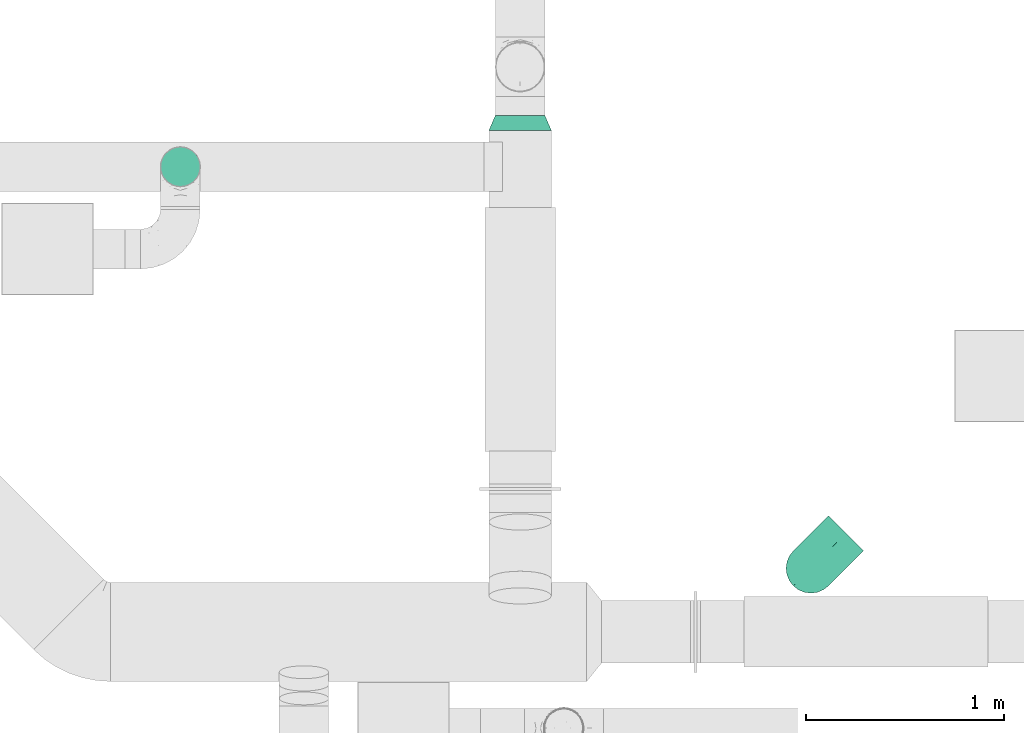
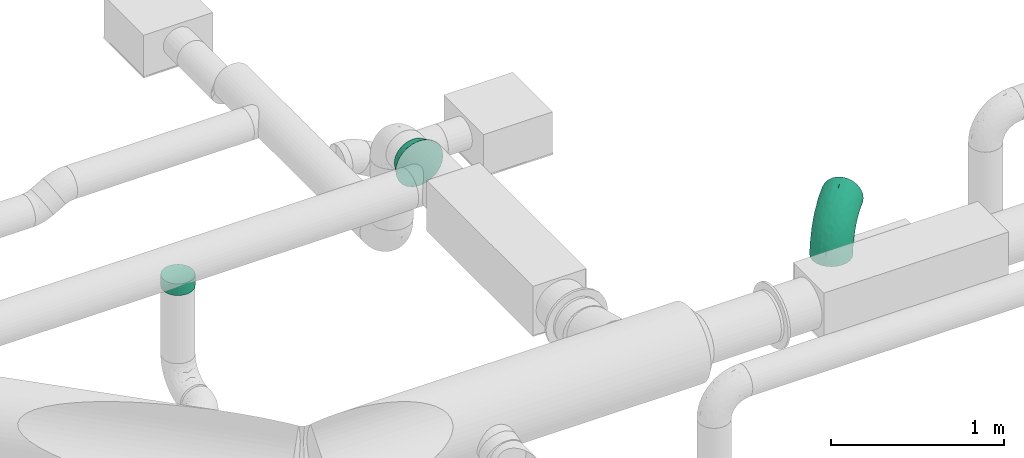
# One storey, part 30 of 31: 3 flow fittings.
"""IFC2X3 building model written with IfcOpenShell, lengths in millimetres."""

import ifcopenshell
import ifcopenshell.guid

model = None  # the IFC model being written
_history = None  # IfcOwnerHistory: only IFC2X3 demands one
_inside = {}  # id of a spatial element -> (the spatial element, [elements in it])
_under = {}  # id of a project, library or spatial element -> (it, [spatial elements below it])
_declared = {}  # id of a project -> (the project, [libraries it declares])
_typed = {}  # id of a type object -> (the type object, [elements of that type])
_made_of = {}  # id of a material, layer set ... -> (it, [elements and type objects made of it])


def new_model(schema):
    """Start an empty IFC model of exactly this schema.

    Asked for "IFC4X3", IfcOpenShell would pick the latest addendum, in which some entities
    have other attributes; the version numbers below select the first issue.
    IFC2X3 requires an IfcOwnerHistory on every rooted entity: one is made here for all.
    """
    global model, _history
    if schema == "IFC4X3":
        model = ifcopenshell.file(schema_version=(4, 3, 0, 0))
    else:
        model = ifcopenshell.file(schema=schema)
    _inside.clear()
    _under.clear()
    _declared.clear()
    _typed.clear()
    _made_of.clear()
    _history = None
    if model.schema == "IFC2X3":
        org = make("IfcOrganization", Name="unknown")
        user = make(
            "IfcPersonAndOrganization",
            ThePerson=make("IfcPerson", FamilyName="unknown"),
            TheOrganization=org,
        )
        app = make(
            "IfcApplication",
            ApplicationDeveloper=org,
            Version="unknown",
            ApplicationFullName="unknown",
            ApplicationIdentifier="unknown",
        )
        _history = make(
            "IfcOwnerHistory",
            OwningUser=user,
            OwningApplication=app,
            ChangeAction="ADDED",
            CreationDate=0,
        )
    return model


def make(cls, **values):
    """One entity of the class cls with the attributes given. An attribute that is None is left unset."""
    return model.create_entity(
        cls, **{name: value for name, value in values.items() if value is not None}
    )


def entity(cls, *values):
    """Any entity or typed value of the class cls, its attributes in the order of the schema. None: left unset."""
    e = model.create_entity(cls)
    for i, value in enumerate(values):
        if value is not None:
            e[i] = value
    return e


def rooted(cls, **values):
    """An entity with a GlobalId (a new one), such as an element, a storey or a relation."""
    return make(cls, GlobalId=ifcopenshell.guid.new(), OwnerHistory=_history, **values)


def si_unit(unit_type, name, prefix=None):
    """IfcSIUnit, for example si_unit("LENGTHUNIT", "METRE", prefix="MILLI")."""
    return make("IfcSIUnit", UnitType=unit_type, Prefix=prefix, Name=name)


def converted_unit(unit_type, name, factor, base, dimensions=None, offset=None):
    """IfcConversionBasedUnit, such as the inch: factor (a typed value) times the base unit."""
    return make(
        "IfcConversionBasedUnit"
        if offset is None
        else "IfcConversionBasedUnitWithOffset",
        ConversionOffset=offset,
        Dimensions=None
        if dimensions is None
        else entity("IfcDimensionalExponents", *dimensions),
        UnitType=unit_type,
        Name=name,
        ConversionFactor=make(
            "IfcMeasureWithUnit", ValueComponent=factor, UnitComponent=base
        ),
    )


def derived_unit(unit_type, elements):
    """IfcDerivedUnit: a product of units, each with its exponent."""
    return make(
        "IfcDerivedUnit",
        Elements=[
            make("IfcDerivedUnitElement", Unit=unit, Exponent=power)
            for unit, power in elements
        ],
        UnitType=unit_type,
    )


def assignment(units):
    """IfcUnitAssignment: the units of a project."""
    return None if units is None else make("IfcUnitAssignment", Units=units)


def point(xyz):
    """IfcCartesianPoint."""
    return None if xyz is None else make("IfcCartesianPoint", Coordinates=xyz)


def direction(xyz):
    """IfcDirection."""
    return None if xyz is None else make("IfcDirection", DirectionRatios=xyz)


def frame(location, z_axis=None, x_axis=None):
    """IfcAxis2Placement3D, a coordinate frame: its origin and axes. An axis left out is left unset."""
    return make(
        "IfcAxis2Placement3D",
        Location=point(location),
        Axis=direction(z_axis),
        RefDirection=direction(x_axis),
    )


def origin_with_axes():
    """The frame at (0, 0, 0) with the z axis (0, 0, 1) and the x axis (1, 0, 0) written out."""
    return frame((0.0, 0.0, 0.0), z_axis=(0.0, 0.0, 1.0), x_axis=(1.0, 0.0, 0.0))


def place(relative_to, where):
    """IfcLocalPlacement: puts the frame where relative to a parent placement (None: the world)."""
    return make(
        "IfcLocalPlacement", PlacementRelTo=relative_to, RelativePlacement=where
    )


def context(
    kind, dimensions, precision=None, world=None, true_north=None, identifier=None
):
    """IfcGeometricRepresentationContext, for example the 3D "Model" context."""
    return make(
        "IfcGeometricRepresentationContext",
        ContextIdentifier=identifier,
        ContextType=kind,
        CoordinateSpaceDimension=dimensions,
        Precision=precision,
        WorldCoordinateSystem=world,
        TrueNorth=true_north,
    )


def subcontext(parent, identifier, kind, view, scale=None):
    """IfcGeometricRepresentationSubContext, for example "Body" below "Model"."""
    return make(
        "IfcGeometricRepresentationSubContext",
        ContextIdentifier=identifier,
        ContextType=kind,
        ParentContext=parent,
        TargetScale=scale,
        TargetView=view,
    )


def project(units=None, contexts=None):
    """IfcProject with its units and contexts."""
    return rooted(
        "IfcProject",
        Name="project",
        RepresentationContexts=contexts,
        UnitsInContext=assignment(units),
    )


def spatial(cls, under=None, at=None, **own):
    """A site, building, storey or space (cls), placed at a placement, below another one or the project."""
    s = rooted(cls, ObjectPlacement=at, **own)
    if under is not None:
        _under.setdefault(under.id(), (under, []))[1].append(s)
    return s


def faces_of(points, faces, orient=None, outer=None):
    """IfcFace entities. A face is a list of loops; a loop is a list of indices into points, from 0.

    orient and outer hold one flag for each loop. By default every Orientation is true, the
    first loop of a face is its IfcFaceOuterBound and the others are IfcFaceBound.
    """
    made = []
    for i, loops in enumerate(faces):
        bounds = []
        for j, loop in enumerate(loops):
            is_outer = j == 0 if outer is None else outer[i][j]
            bounds.append(
                make(
                    "IfcFaceOuterBound" if is_outer else "IfcFaceBound",
                    Bound=make("IfcPolyLoop", Polygon=[points[k] for k in loop]),
                    Orientation=True if orient is None else orient[i][j],
                )
            )
        made.append(make("IfcFace", Bounds=bounds))
    return made


def open_shell(faces, orient=None, outer=None):
    """The faces of one IfcOpenShell. surface_model builds it on its shared points."""
    return ("IfcOpenShell", faces, orient, outer)


def surface_model(cls, points, shells):
    """IfcFaceBasedSurfaceModel or IfcShellBasedSurfaceModel (cls): surfaces that need not close."""
    shared = [point(p) for p in points]
    made = [make(c, CfsFaces=faces_of(shared, fs, o, b)) for c, fs, o, b in shells]
    if cls == "IfcFaceBasedSurfaceModel":
        return make(cls, FbsmFaces=made)
    return make(cls, SbsmBoundary=made)


def shape(context_of_items, identifier, shape_type, items):
    """IfcShapeRepresentation: the items that make up one representation, for example the "Body"."""
    return make(
        "IfcShapeRepresentation",
        ContextOfItems=context_of_items,
        RepresentationIdentifier=identifier,
        RepresentationType=shape_type,
        Items=items,
    )


def source(mapping_origin, context_of_items, identifier, shape_type, items):
    """IfcRepresentationMap: a shape defined once, which mapped items show again and again."""
    return make(
        "IfcRepresentationMap",
        MappingOrigin=mapping_origin,
        MappedRepresentation=shape(context_of_items, identifier, shape_type, items),
    )


def transform(
    local_origin,
    x_axis=None,
    y_axis=None,
    z_axis=None,
    scale=None,
    scale2=None,
    scale3=None,
    uniform=True,
):
    """IfcCartesianTransformationOperator3D, or its non-uniform kind. x_axis, y_axis, z_axis: its Axis1, 2, 3."""
    if uniform:
        return make(
            "IfcCartesianTransformationOperator3D",
            Axis1=direction(x_axis),
            Axis2=direction(y_axis),
            LocalOrigin=point(local_origin),
            Scale=scale,
            Axis3=direction(z_axis),
        )
    return make(
        "IfcCartesianTransformationOperator3DnonUniform",
        Axis1=direction(x_axis),
        Axis2=direction(y_axis),
        LocalOrigin=point(local_origin),
        Scale=scale,
        Axis3=direction(z_axis),
        Scale2=scale2,
        Scale3=scale3,
    )


def mapped(mapping_source, mapping_target):
    """IfcMappedItem: shows the shape of a source again, moved by a transform."""
    return make(
        "IfcMappedItem", MappingSource=mapping_source, MappingTarget=mapping_target
    )


def made_of(thing, what):
    """Note that an element or type object is made of a material, layer set ...; save() writes the relation."""
    if what is not None:
        _made_of.setdefault(what.id(), (what, []))[1].append(thing)
    return thing


def type_object(cls, material=None, **own):
    """A type object (cls), such as IfcWallType, which elements share."""
    return made_of(rooted(cls, **own), material)


def element(
    cls,
    number,
    at=None,
    inside=None,
    cuts=None,
    type_object=None,
    material=None,
    context=None,
    identifier="Body",
    shape_type=None,
    held_by="IfcProductDefinitionShape",
    body=None,
    shapes=None,
    **own,
):
    """One element of the class cls, such as IfcWall. Its Tag is "e" and its number.

    at: its placement. inside: the storey or other place that contains it. cuts: it is an
    opening in that element (IfcRelVoidsElement). A single representation is given by context,
    identifier, shape_type and body (its items); several are given by shapes. held_by: the class
    of the entity that holds the representations. save() writes the other relations.
    """
    e = rooted(cls, Tag="e%d" % number, ObjectPlacement=at, **own)
    if body is not None:
        shapes = [shape(context, identifier, shape_type, body)]
    if shapes is not None:
        e.Representation = make(held_by, Representations=shapes)
    if inside is not None:
        _inside.setdefault(inside.id(), (inside, []))[1].append(e)
    if cuts is not None:
        rooted(
            "IfcRelVoidsElement", RelatingBuildingElement=cuts, RelatedOpeningElement=e
        )
    if type_object is not None:
        _typed.setdefault(type_object.id(), (type_object, []))[1].append(e)
    return made_of(e, material)


def aggregate(whole, parts):
    """IfcRelAggregates: a whole, such as a stair, and the parts it consists of."""
    return rooted("IfcRelAggregates", RelatingObject=whole, RelatedObjects=parts)


def save(model, path):
    """Write the relations noted so far, then the file.

    IfcRelAggregates (storeys below a building ...), IfcRelContainedInSpatialStructure (elements
    in a storey), IfcRelDefinesByType, IfcRelAssociatesMaterial and IfcRelDeclares: one each for
    every whole, place, type object, material and project.
    """
    for whole, parts in _under.values():
        aggregate(whole, parts)
    for where, things in _inside.values():
        rooted(
            "IfcRelContainedInSpatialStructure",
            RelatedElements=things,
            RelatingStructure=where,
        )
    for kind, things in _typed.values():
        rooted("IfcRelDefinesByType", RelatedObjects=things, RelatingType=kind)
    for what, things in _made_of.values():
        rooted("IfcRelAssociatesMaterial", RelatedObjects=things, RelatingMaterial=what)
    for by, libraries in _declared.values():
        rooted("IfcRelDeclares", RelatingContext=by, RelatedDefinitions=libraries)
    model.write(path)


model = new_model("IFC2X3")

# Units and contexts
model_context = context("Model", 3, precision=0.01, world=frame((0.0, 4.29681676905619e-09, 0.0)), true_north=direction((4.01073788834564e-13, 1.0)))
plan_context = context("Plan", 3, precision=0.01, world=frame((0.0, 4.29681676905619e-09, 0.0)), true_north=direction((4.01073788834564e-13, 1.0)))
body_context = subcontext(model_context, "Body", "Model", "MODEL_VIEW")
ifc_project = project(units=[converted_unit("PLANEANGLEUNIT", "DEGREE", entity("IfcPositiveLengthMeasure", 0.0174532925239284), si_unit("PLANEANGLEUNIT", "RADIAN"), dimensions=[0, 0, 0, 0, 0, 0, 0]), si_unit("AREAUNIT", "SQUARE_METRE"), si_unit("LENGTHUNIT", "METRE", prefix="MILLI"), si_unit("MASSUNIT", "GRAM", prefix="KILO"), si_unit("POWERUNIT", "WATT"), si_unit("PRESSUREUNIT", "PASCAL", prefix="KILO"), si_unit("FORCEUNIT", "NEWTON", prefix="KILO"), si_unit("ELECTRICVOLTAGEUNIT", "VOLT"), si_unit("ELECTRICCURRENTUNIT", "AMPERE"), si_unit("THERMODYNAMICTEMPERATUREUNIT", "DEGREE_CELSIUS"), si_unit("TIMEUNIT", "SECOND"), si_unit("VOLUMEUNIT", "CUBIC_METRE"), derived_unit("LINEARVELOCITYUNIT", [(si_unit("LENGTHUNIT", "METRE"), 1), (si_unit("TIMEUNIT", "SECOND"), -1)]), derived_unit("VOLUMETRICFLOWRATEUNIT", [(si_unit("VOLUMEUNIT", "CUBIC_METRE"), 1), (si_unit("TIMEUNIT", "SECOND"), -1)]), derived_unit("THERMALTRANSMITTANCEUNIT", [(si_unit("POWERUNIT", "WATT"), 1), (si_unit("THERMODYNAMICTEMPERATUREUNIT", "KELVIN"), -1), (si_unit("AREAUNIT", "SQUARE_METRE"), -1)]), derived_unit("SOUNDPRESSUREUNIT", [(si_unit("PRESSUREUNIT", "PASCAL"), 1)])], contexts=[model_context, plan_context])

# Site, building, storey
site_placement = place(None, frame((0.0, -4.29681676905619e-09, 0.0), z_axis=(0.0, 0.0, 1.0), x_axis=(1.0, 0.0, 0.0)))
site = spatial("IfcSite", under=ifc_project, at=site_placement, CompositionType="ELEMENT")
building_placement = place(site_placement, frame((0.0, 4.29681676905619e-09, 0.0), z_axis=(0.0, 0.0, 1.0), x_axis=(1.0, 0.0, 0.0)))
building = spatial("IfcBuilding", under=site, at=building_placement, Name="mc-building", CompositionType="ELEMENT")
storey_placement = place(building_placement, frame((0.0, 0.0, 210900.0), z_axis=(0.0, 0.0, 1.0), x_axis=(1.0, 0.0, 0.0)))
storey = spatial("IfcBuildingStorey", under=building, at=storey_placement, Name="Nivå F", CompositionType="ELEMENT", Elevation=210900.0)

# Flow fittings
duct_fitting_type_1 = type_object("IfcDuctFittingType", Name="magicirc_reduction_001", PredefinedType="TRANSITION")
shared_shape_1 = source(origin_with_axes(), body_context, "Body", "SurfaceModel", [
    surface_model("IfcShellBasedSurfaceModel", [(75.0, 78.75, 136.39901), (75.0, 40.764, 152.13332), (75.0, 0.0, 157.5), (75.0, 136.39901, 78.75), (75.0, 157.5, 0.0), (75.0, 152.13332, 40.764), (75.0, -152.13332, -40.764), (75.0, -136.39901, -78.75), (75.0, -152.13332, 40.764), (75.0, -78.75, -136.39901), (75.0, -40.764, -152.13332), (75.0, -111.36932, -111.36932), (75.0, -157.5, 0.0), (0.0, -73.47315, 101.12712), (0.0, -38.62713, 118.88206), (0.0, -101.12712, 73.47315), (0.0, -125.0, 0.0), (0.0, -118.88206, 38.62713), (0.0, -118.88206, -38.62713), (0.0, -101.12712, -73.47315), (0.0, -73.47315, -101.12712), (0.0, 0.0, 125.0), (0.0, 38.62713, 118.88206), (0.0, 73.47315, 101.12712), (0.0, 118.88206, 38.62713), (0.0, 118.88206, -38.62713), (0.0, 101.12712, -73.47315), (0.0, 73.47315, -101.12712), (0.0, 38.62713, -118.88206), (0.0, -38.62713, -118.88206), (0.0, 101.12712, 73.47315), (0.0, 0.0, -125.0), (75.0, -40.764, 152.13332), (75.0, -111.36932, 111.36932), (75.0, -78.75, 136.39901), (75.0, -136.39901, 78.75), (75.0, 111.36932, 111.36932), (75.0, 0.0, -157.5), (75.0, 111.36932, -111.36932), (75.0, 136.39901, -78.75), (75.0, 152.13332, -40.764), (75.0, 78.75, -136.39901), (75.0, 40.764, -152.13332), (0.0, 125.0, 0.0)], [open_shell([[[0, 1, 2]], [[3, 4, 5]], [[6, 7, 8]], [[9, 10, 8]], [[8, 11, 9]], [[12, 6, 8]], [[13, 14, 15]], [[15, 16, 17]], [[18, 16, 19]], [[19, 16, 20]], [[21, 22, 23]], [[24, 25, 26]], [[24, 26, 27]], [[24, 28, 16]], [[29, 20, 16]], [[16, 30, 24]], [[27, 28, 24]], [[31, 16, 28]], [[32, 0, 2]], [[33, 32, 34]], [[32, 35, 3]], [[35, 32, 33]], [[8, 3, 35]], [[32, 36, 0]], [[32, 3, 36]], [[8, 4, 3]], [[8, 37, 4]], [[8, 7, 11]], [[10, 37, 8]], [[4, 38, 39]], [[40, 4, 39]], [[41, 38, 4]], [[42, 41, 4]], [[42, 4, 37]], [[15, 23, 30]], [[23, 15, 21]], [[15, 14, 21]], [[30, 16, 15]], [[31, 29, 16]], [[25, 24, 43]], [[18, 19, 7]], [[16, 18, 6]], [[9, 20, 29]], [[19, 20, 11]], [[31, 10, 29]], [[18, 7, 6]], [[6, 12, 16]], [[19, 11, 7]], [[10, 9, 29]], [[20, 9, 11]], [[31, 37, 10]], [[37, 31, 42]], [[42, 31, 28]], [[27, 41, 28]], [[39, 26, 25]], [[38, 27, 26]], [[40, 25, 43]], [[27, 38, 41]], [[41, 42, 28]], [[38, 26, 39]], [[25, 40, 39]], [[43, 4, 40]], [[24, 30, 3]], [[43, 24, 5]], [[0, 23, 22]], [[30, 23, 36]], [[21, 1, 22]], [[24, 3, 5]], [[5, 4, 43]], [[30, 36, 3]], [[1, 0, 22]], [[23, 0, 36]], [[21, 2, 1]], [[2, 21, 32]], [[32, 21, 14]], [[13, 34, 14]], [[35, 15, 17]], [[33, 13, 15]], [[8, 17, 16]], [[13, 33, 34]], [[34, 32, 14]], [[33, 15, 35]], [[17, 8, 35]], [[16, 12, 8]]])]),
])
flow_fitting_1_placement = place(storey_placement, frame((725584.4603, 441100.1577, 3795.0), z_axis=(0.0, 0.0, 1.0), x_axis=(0.0, -1.0, 0.0)))
element("IfcFlowFitting", 1, at=flow_fitting_1_placement, inside=storey, type_object=duct_fitting_type_1, Name="magicirc_reduction_001", context=body_context, shape_type="MappedRepresentation", body=[
    mapped(shared_shape_1, transform((0.0, 0.0, 0.0), scale=1.0)),
])
duct_fitting_type_2 = type_object("IfcDuctFittingType", Name="magicirc_tapoutlet_001", PredefinedType="CONNECTOR")
shared_shape_2 = source(origin_with_axes(), body_context, "Body", "SurfaceModel", [
    surface_model("IfcShellBasedSurfaceModel", [(-56.096, -25.8819, -96.59259), (-56.096, -100.0, 0.0), (-56.096, 0.0, -100.0), (-56.096, -50.0, -86.60254), (-56.096, -70.71068, -70.71068), (-56.096, -86.60254, -50.0), (-56.096, 70.71068, -70.71068), (-56.096, 96.59259, 25.8819), (-56.096, 50.0, -86.60254), (-56.096, 25.8819, -96.59259), (-56.096, 86.60254, -50.0), (-56.096, 96.59259, -25.8819), (-56.096, 100.0, 0.0), (-56.096, -96.59259, -25.8819), (-56.096, -96.59259, 25.8819), (-56.096, -86.60254, 50.0), (-56.096, -70.71068, 70.71068), (-56.096, -25.8819, 96.59259), (-56.096, -50.0, 86.60254), (-56.096, 25.8819, 96.59259), (-56.096, 70.71068, 70.71068), (-56.096, 86.60254, 50.0), (-56.096, 50.0, 86.60254), (-56.096, 0.0, 100.0), (0.0, -25.8819, 96.59259), (0.0, 0.0, 100.0), (0.0, -50.0, 86.60254), (0.0, -70.71068, 70.71068), (0.0, -100.0, 0.0), (0.0, -96.59259, 25.8819), (0.0, -86.60254, 50.0), (0.0, -96.59259, -25.8819), (0.0, -86.60254, -50.0), (0.0, -70.71068, -70.71068), (0.0, -25.8819, -96.59259), (0.0, -50.0, -86.60254), (0.0, 0.0, -100.0), (0.0, 25.8819, -96.59259), (0.0, 50.0, -86.60254), (0.0, 70.71068, -70.71068), (0.0, 96.59259, -25.8819), (0.0, 86.60254, -50.0), (0.0, 100.0, 0.0), (0.0, 96.59259, 25.8819), (0.0, 86.60254, 50.0), (0.0, 70.71068, 70.71068), (0.0, 25.8819, 96.59259), (0.0, 50.0, 86.60254), (25.0, 0.0, -100.0), (25.0, 25.8819, -96.59259), (25.0, -25.8819, -96.59259), (25.0, -96.59259, 25.8819), (25.0, -50.0, -86.60254), (25.0, -86.60254, -50.0), (25.0, -70.71068, -70.71068), (25.0, 100.0, 0.0), (25.0, 96.59259, 25.8819), (25.0, 70.71068, -70.71068), (25.0, 50.0, -86.60254), (25.0, 96.59259, -25.8819), (25.0, 86.60254, -50.0), (25.0, -96.59259, -25.8819), (25.0, -86.60254, 50.0), (25.0, -70.71068, 70.71068), (25.0, -50.0, 86.60254), (25.0, -25.8819, 96.59259), (25.0, 0.0, 100.0), (25.0, 86.60254, 50.0), (25.0, 70.71068, 70.71068), (25.0, 25.8819, 96.59259), (25.0, 50.0, 86.60254), (25.0, -100.0, 0.0)], [open_shell([[[0, 1, 2]], [[3, 1, 0]], [[1, 4, 5]], [[1, 3, 4]], [[6, 2, 7]], [[2, 8, 9]], [[2, 6, 8]], [[10, 7, 11]], [[7, 10, 6]], [[12, 11, 7]], [[1, 5, 13]], [[14, 15, 2]], [[15, 16, 2]], [[17, 2, 18]], [[2, 16, 18]], [[2, 17, 19]], [[2, 20, 21]], [[7, 2, 21]], [[2, 22, 20]], [[19, 22, 2]], [[17, 23, 19]], [[14, 2, 1]], [[24, 25, 23]], [[26, 24, 17]], [[17, 24, 23]], [[16, 27, 18]], [[26, 17, 18]], [[26, 18, 27]], [[1, 28, 29]], [[14, 29, 30]], [[15, 30, 16]], [[29, 14, 1]], [[15, 14, 30]], [[27, 16, 30]], [[31, 28, 1]], [[32, 31, 13]], [[13, 31, 1]], [[4, 33, 5]], [[32, 13, 5]], [[32, 5, 33]], [[34, 35, 0]], [[36, 34, 2]], [[3, 35, 4]], [[35, 3, 0]], [[34, 0, 2]], [[33, 4, 35]], [[37, 36, 2]], [[38, 37, 9]], [[9, 37, 2]], [[6, 39, 8]], [[38, 9, 8]], [[38, 8, 39]], [[40, 41, 11]], [[42, 40, 12]], [[10, 39, 6]], [[41, 10, 11]], [[11, 12, 40]], [[41, 39, 10]], [[43, 42, 12]], [[44, 43, 7]], [[7, 43, 12]], [[20, 45, 21]], [[44, 7, 21]], [[44, 21, 45]], [[23, 25, 46]], [[22, 46, 47]], [[47, 20, 22]], [[46, 22, 19]], [[19, 23, 46]], [[45, 20, 47]], [[48, 49, 50]], [[50, 51, 52]], [[53, 54, 51]], [[51, 54, 52]], [[50, 55, 56]], [[57, 55, 58]], [[50, 49, 58]], [[59, 55, 60]], [[57, 60, 55]], [[58, 55, 50]], [[61, 53, 51]], [[62, 51, 50]], [[50, 63, 62]], [[64, 50, 65]], [[64, 63, 50]], [[66, 65, 50]], [[67, 68, 50]], [[50, 56, 67]], [[69, 66, 70]], [[50, 68, 70]], [[70, 66, 50]], [[71, 61, 51]], [[65, 66, 25]], [[64, 65, 24]], [[24, 65, 25]], [[27, 63, 26]], [[64, 24, 26]], [[64, 26, 63]], [[51, 62, 30]], [[71, 51, 29]], [[30, 62, 27]], [[51, 30, 29]], [[71, 29, 28]], [[63, 27, 62]], [[61, 71, 28]], [[53, 61, 31]], [[31, 61, 28]], [[33, 54, 32]], [[53, 31, 32]], [[53, 32, 54]], [[34, 48, 50]], [[35, 50, 52]], [[35, 52, 33]], [[48, 34, 36]], [[35, 34, 50]], [[54, 33, 52]], [[49, 48, 36]], [[58, 49, 37]], [[37, 49, 36]], [[39, 57, 38]], [[58, 37, 38]], [[58, 38, 57]], [[59, 60, 41]], [[55, 59, 40]], [[41, 60, 39]], [[59, 41, 40]], [[55, 40, 42]], [[57, 39, 60]], [[56, 55, 42]], [[67, 56, 43]], [[43, 56, 42]], [[45, 68, 44]], [[67, 43, 44]], [[67, 44, 68]], [[69, 70, 47]], [[66, 69, 46]], [[47, 70, 45]], [[69, 47, 46]], [[66, 46, 25]], [[68, 45, 70]], [[64, 62, 50]], [[63, 62, 64]], [[56, 67, 50]], [[66, 50, 70]], [[19, 2, 17]], [[2, 21, 7]], [[20, 21, 2]], [[20, 2, 22]], [[2, 1, 14]]])]),
])
flow_fitting_2_placement = place(storey_placement, frame((723870.52987, 440841.83428, 3670.0), z_axis=(0.0, -1.0, 0.0), x_axis=(0.0, 0.0, -1.0)))
element("IfcFlowFitting", 2, at=flow_fitting_2_placement, inside=storey, type_object=duct_fitting_type_2, Name="magicirc_tapoutlet_001", context=body_context, shape_type="MappedRepresentation", body=[
    mapped(shared_shape_2, transform((0.0, 0.0, 0.0), scale=1.0)),
])
duct_fitting_type_3 = type_object("IfcDuctFittingType", Name="magicirc_elbow_full_radius_001", PredefinedType="BEND")
shared_shape_3 = source(origin_with_axes(), body_context, "Body", "SurfaceModel", [
    surface_model("IfcShellBasedSurfaceModel", [(-250.0, 0.0, -125.0), (-250.0, -88.38835, -88.38835), (-250.0, 32.35238, -120.74073), (-250.0, 62.5, -108.25318), (-250.0, 88.38835, -88.38835), (-250.0, 120.74073, -32.35238), (-250.0, 108.25318, -62.5), (-250.0, -62.5, -108.25318), (-250.0, -32.35238, -120.74073), (-250.0, -108.25318, -62.5), (-250.0, -120.74073, -32.35238), (-250.0, -125.0, 0.0), (-250.0, -88.38835, 88.38835), (-250.0, 120.74073, 32.35238), (-250.0, -62.5, 108.25318), (-250.0, 108.25318, 62.5), (-250.0, 62.5, 108.25318), (-250.0, 88.38835, 88.38835), (-250.0, 32.35238, 120.74073), (-250.0, -108.25318, 62.5), (-250.0, -120.74073, 32.35238), (-250.0, -32.35238, 120.74073), (-250.0, 0.0, 125.0), (-250.0, 125.0, 0.0), (-32.35238, 250.0, -120.74073), (88.38835, 250.0, -88.38835), (0.0, 250.0, -125.0), (-88.38835, 250.0, -88.38835), (-62.5, 250.0, -108.25318), (-108.25318, 250.0, -62.5), (-120.74073, 250.0, -32.35238), (32.35238, 250.0, -120.74073), (62.5, 250.0, -108.25318), (120.74073, 250.0, -32.35238), (108.25318, 250.0, -62.5), (125.0, 250.0, 0.0), (88.38835, 250.0, 88.38835), (62.5, 250.0, 108.25318), (-120.74073, 250.0, 32.35238), (-108.25318, 250.0, 62.5), (-62.5, 250.0, 108.25318), (-88.38835, 250.0, 88.38835), (-32.35238, 250.0, 120.74073), (120.74073, 250.0, 32.35238), (108.25318, 250.0, 62.5), (0.0, 250.0, 125.0), (32.35238, 250.0, 120.74073), (-125.0, 250.0, 0.0), (-210.86951, 73.07385, 104.36376), (-184.88194, -119.30291, 0.0), (-195.25827, -115.02308, 37.93413), (-218.90842, -122.27984, 0.0), (53.79635, 43.6295, 43.29829), (28.71982, 26.00799, 63.66662), (24.95926, 3.36677, 37.10772), (-143.32142, -83.48741, 74.82033), (-148.43956, -66.68827, 93.84246), (-193.81021, -79.4231, 92.40443), (-215.01547, -101.28826, 70.7859), (-170.24804, -98.61932, 63.57524), (15.48822, 139.1377, 119.17758), (51.95219, 181.65541, 109.88177), (21.43204, 199.18477, 122.23461), (-92.12122, -88.57213, 0.0), (-62.5, -74.75953, 0.0), (-102.19713, -88.25159, 37.84333), (114.99061, 194.89886, 37.86695), (105.10704, 146.7157, 35.60305), (110.84382, 153.31219, 0.0), (-35.72732, -56.0131, 0.0), (-19.33443, -42.66525, 24.1819), (-49.61048, -64.84865, 21.07887), (-134.49668, -18.50083, 117.62872), (-140.3114, 18.31287, 124.83908), (-163.87891, -5.14412, 123.50312), (-19.95522, 81.94859, 120.03225), (-25.80872, 122.13882, 124.73796), (-52.10962, 92.30678, 124.9631), (-31.05983, -5.99293, 89.90144), (-41.72797, 23.84412, 111.01725), (-81.01653, -19.40599, 104.87443), (-106.83954, -79.59981, 60.56422), (-146.98015, -105.1079, 35.84762), (-71.29451, -72.63164, 38.82328), (-73.06126, 220.06184, 103.19018), (-98.79093, 205.2116, 84.29848), (-75.91528, 182.06995, 107.88634), (-199.69686, 99.57099, 85.2884), (-203.49675, 11.2922, 124.81465), (-116.53306, 171.44239, 81.08815), (-111.87993, 90.36566, 118.79078), (-104.67411, 138.16705, 105.76412), (-145.96795, 109.49288, 99.87096), (-196.30432, -21.44057, 122.11502), (-215.51315, -51.86659, 112.81539), (-204.26429, 116.15735, 61.96761), (-171.07855, 119.2179, 78.533), (-181.86003, 134.49131, 46.84392), (-214.14919, 125.14691, 34.6495), (-134.49131, 181.86003, 46.84392), (-159.17408, 159.17408, 29.15352), (-152.46395, 152.46395, 55.37908), (-211.37287, 131.11793, 0.0), (-188.77781, 138.76885, 22.08599), (-176.52685, 148.87287, 0.0), (-90.84545, 14.70792, 120.26896), (-165.92299, 79.38605, 109.77065), (-194.42694, 43.85537, 119.55352), (38.35285, 111.1449, 103.53188), (67.56111, 151.47747, 93.91415), (101.2929, 214.32433, 70.67839), (-11.88244, 26.84905, 98.98258), (69.59743, 58.34132, 24.07272), (88.25159, 102.19715, 37.84335), (71.67798, 75.77581, 46.99643), (-84.05365, 84.19131, 124.04603), (-74.05474, 58.59216, 124.60033), (122.27984, 218.90842, 0.0), (-11.46722, -27.90939, 45.97099), (2.8419, -2.84189, 63.66452), (-36.75436, -35.39096, 65.83052), (79.49517, 196.80314, 92.78444), (59.14009, 215.57843, 109.07718), (-43.54002, 203.9777, 118.93211), (-3.74505, 217.94309, 124.98888), (47.42619, 250.0, 114.49695), (-11.6252, 186.58509, 124.95553), (-37.69004, 161.1507, 123.41409), (-148.87287, 176.52685, 0.0), (-138.76885, 188.77781, 22.08599), (-131.11793, 211.37287, 0.0), (-125.14691, 214.14919, 34.6495), (-84.38488, 127.39299, 117.02266), (-59.20815, 123.25028, 123.23304), (-63.59847, 155.77939, 118.03647), (56.0131, 35.72732, 0.0), (48.70082, 26.28379, 21.1922), (-116.19732, 204.24725, 61.91096), (9.4067, 98.99033, 114.49463), (79.67349, 106.95659, 60.52634), (-16.17619, 250.0, 122.87036), (82.93177, 142.04467, 75.00397), (-143.56269, 53.49001, 122.15523), (102.38473, 121.74244, 0.0), (88.57213, 92.12122, 0.0), (44.74763, 58.49273, 72.95926), (18.11496, 55.96411, 95.23773), (9.69309, 23.39724, 81.63831), (-67.51915, -39.60495, 84.29377), (98.46572, 169.05992, 63.37638), (-170.8102, -51.18183, 108.87038), (-153.31219, -110.84382, 0.0), (-123.62588, -42.04646, 104.74517), (-73.23164, -60.48705, 64.15546), (-139.54816, 139.54816, 82.62583), (-108.1391, 55.1991, 124.67421), (-60.03995, 38.39208, 120.18375), (65.18219, 107.64577, 80.24903), (43.4165, 83.93892, 89.61045), (-4.9115, 60.75686, 109.8509), (-110.21718, -65.96071, 80.65176), (-43.62951, -53.79636, 43.29829), (37.26667, 8.95465, 0.0), (14.15601, -14.15601, 0.0), (-8.95465, -37.26667, 0.0), (-121.74244, -102.38473, 0.0), (74.75953, 62.5, 0.0), (119.30291, 184.88194, 0.0), (-48.82206, -1.60827, -102.07682), (-81.15095, 5.22067, -115.678), (-46.7578, 29.40312, -114.58593), (-204.53459, 115.51747, -62.86787), (-214.14919, 125.14691, -34.6495), (-181.86003, 134.49131, -46.84392), (-14.61222, -31.35351, -44.43883), (11.84236, -11.84236, -33.95092), (-22.4719, -45.07054, -24.34392), (-223.1891, 97.50172, -81.04959), (-204.40195, 73.34241, -105.17442), (-205.98338, 43.52544, -118.79771), (-115.51747, 204.53457, -62.86787), (-123.49723, 170.45377, -74.23949), (-134.49131, 181.86003, -46.84392), (-183.06045, -52.02369, -110.01015), (-110.47452, -37.60202, -103.79083), (-151.64326, -67.35, -94.13381), (-188.77781, 138.76885, -22.08599), (-114.75143, 65.55471, -123.1751), (-107.82895, 32.74573, -124.62786), (-148.44163, 51.08373, -122.1244), (-159.17408, 159.17408, -29.15352), (-138.76885, 188.77781, -22.08599), (-119.19358, 124.76558, -104.29075), (-156.37688, 113.94777, -91.79313), (-139.54817, 139.54815, -82.62583), (-17.8555, 5.83155, -89.841), (-53.98544, -29.45541, -85.32833), (52.02369, 183.06045, -110.01015), (-194.89886, -114.99061, -37.86695), (68.13995, 56.13213, -24.5986), (53.12789, 44.54335, -46.08326), (71.63973, 76.43802, -47.84654), (-218.9084, -122.27984, 0.0), (-142.39083, -82.85696, -75.24042), (-197.12937, -79.50134, -92.82571), (-214.32433, -101.2929, -70.67839), (-187.89553, 11.55914, -124.94803), (-76.28398, -71.66476, -47.61611), (-102.35833, -88.16959, -38.28022), (-107.64683, -79.80589, -60.8013), (-55.74247, -67.93132, -24.47435), (-73.34242, 204.40195, -105.17441), (-199.49861, -21.42932, -122.24748), (-107.64576, -65.1822, -80.24902), (-0.34225, 0.34224, -70.72271), (29.30666, 54.05255, -85.49962), (16.15015, 142.42885, -119.37772), (43.11376, 128.52401, -105.34342), (14.39958, 85.87454, -108.99442), (-152.46395, 152.46393, -55.37908), (-125.14691, 214.14919, -34.6495), (-83.7122, 64.8786, -124.99462), (-54.88917, 96.03345, -124.99152), (-55.00537, 55.00536, -122.31604), (114.99061, 194.89886, -37.86695), (-97.50172, 223.1891, -81.04959), (-101.67989, 188.66846, -87.26306), (21.42932, 199.49861, -122.24748), (-11.55914, 187.89551, -124.94803), (-17.77846, 99.36444, -122.09337), (-43.52544, 205.98336, -118.79771), (-142.42885, -16.15015, -119.37772), (79.50134, 197.12936, -92.82571), (-188.66846, 101.67988, -87.26306), (-170.17192, 125.74792, -71.81093), (45.368, 22.81369, -24.20694), (101.2929, 214.32433, -70.67839), (105.10171, 146.67975, -35.58648), (88.16959, 102.35833, -38.28022), (79.96492, 108.09127, -60.85482), (-146.67975, -105.10171, -35.58648), (122.27984, 218.9084, 0.0), (98.46572, 169.0599, -63.37638), (-144.66282, 11.20212, -124.51517), (-87.43442, 152.97293, -109.2834), (67.3894, 152.70136, -94.37252), (-152.97295, 87.4344, -109.2834), (-102.45394, 113.88071, -114.88639), (-64.92037, 173.4251, -114.6928), (-51.08373, 148.44162, -122.1244), (-30.24824, 128.8738, -124.99659), (30.47164, 29.3995, -64.89969), (53.45139, 66.81998, -68.66115), (65.18219, 107.64576, -80.24903), (82.78793, 142.70732, -75.45609), (-67.10765, -53.67876, -68.59085), (-44.54336, -53.12789, -46.08326), (-169.05992, -98.46572, -63.37638), (-77.48047, 126.65809, -119.10822), (-111.62197, 155.40485, -94.01416), (-173.42512, 64.92037, -114.69279), (-93.45156, 93.45155, -121.68252), (31.52201, 14.63788, -44.14115), (-75.97227, -25.0209, -99.65574), (-18.30454, 63.16594, -115.56557), (-16.44961, 32.13712, -103.97124), (-29.64558, -30.50919, -65.101)], [open_shell([[[0, 1, 2]], [[3, 2, 4]], [[5, 6, 4]], [[1, 4, 2]], [[4, 1, 5]], [[7, 1, 8]], [[1, 0, 8]], [[9, 10, 1]], [[11, 1, 10]], [[11, 12, 1]], [[13, 5, 1]], [[1, 14, 13]], [[13, 14, 15]], [[16, 15, 14]], [[17, 15, 16]], [[16, 14, 18]], [[19, 12, 20]], [[20, 12, 11]], [[21, 22, 14]], [[12, 14, 1]], [[14, 22, 18]], [[23, 5, 13]], [[24, 25, 26]], [[27, 24, 28]], [[27, 29, 30]], [[24, 27, 25]], [[30, 25, 27]], [[31, 25, 32]], [[31, 26, 25]], [[25, 33, 34]], [[33, 25, 35]], [[25, 36, 35]], [[25, 30, 37]], [[30, 38, 37]], [[39, 37, 38]], [[37, 39, 40]], [[40, 39, 41]], [[42, 37, 40]], [[43, 36, 44]], [[35, 36, 43]], [[37, 45, 46]], [[25, 37, 36]], [[42, 45, 37]], [[30, 47, 38]], [[17, 16, 48]], [[49, 50, 51]], [[52, 53, 54]], [[55, 56, 57]], [[58, 50, 59]], [[60, 61, 62]], [[63, 64, 65]], [[66, 67, 68]], [[69, 70, 71]], [[72, 73, 74]], [[75, 76, 77]], [[12, 57, 14]], [[78, 79, 80]], [[81, 82, 65]], [[64, 83, 65]], [[84, 85, 86]], [[12, 19, 58]], [[12, 58, 57]], [[17, 48, 87]], [[22, 88, 18]], [[86, 85, 89]], [[90, 91, 92]], [[93, 21, 94]], [[95, 96, 97]], [[85, 41, 39]], [[15, 17, 87]], [[21, 93, 22]], [[23, 13, 98]], [[99, 100, 101]], [[91, 86, 89]], [[102, 103, 104]], [[80, 79, 105]], [[106, 48, 107]], [[107, 16, 18]], [[14, 94, 21]], [[61, 108, 109]], [[36, 110, 44]], [[79, 78, 111]], [[112, 113, 114]], [[84, 40, 41]], [[44, 66, 43]], [[115, 116, 77]], [[45, 62, 46]], [[66, 117, 43]], [[118, 119, 120]], [[37, 121, 36]], [[121, 37, 122]], [[123, 124, 42]], [[98, 97, 103]], [[66, 44, 110]], [[15, 87, 95]], [[122, 37, 125]], [[126, 127, 76]], [[128, 129, 130]], [[129, 131, 130]], [[128, 104, 100]], [[130, 131, 47]], [[132, 133, 134]], [[42, 40, 123]], [[99, 129, 100]], [[135, 112, 136]], [[126, 123, 127]], [[137, 38, 131]], [[138, 60, 76]], [[19, 20, 50]], [[101, 100, 97]], [[114, 113, 139]], [[124, 45, 140]], [[46, 62, 122]], [[103, 100, 104]], [[92, 96, 87]], [[119, 118, 54]], [[98, 95, 97]], [[141, 121, 109]], [[88, 22, 93]], [[142, 107, 73]], [[143, 113, 144]], [[145, 146, 147]], [[78, 148, 120]], [[81, 65, 83]], [[39, 38, 137]], [[85, 137, 89]], [[139, 67, 149]], [[121, 110, 36]], [[72, 93, 150]], [[88, 73, 107]], [[55, 59, 81]], [[94, 57, 150]], [[50, 20, 51]], [[50, 151, 82]], [[62, 45, 124]], [[60, 62, 126]], [[109, 121, 61]], [[110, 121, 149]], [[84, 123, 40]], [[127, 134, 133]], [[152, 72, 150]], [[105, 73, 72]], [[149, 67, 66]], [[149, 141, 139]], [[153, 81, 83]], [[82, 59, 50]], [[88, 93, 74]], [[107, 18, 88]], [[100, 129, 128]], [[131, 129, 99]], [[131, 99, 137]], [[131, 38, 47]], [[99, 101, 89]], [[39, 137, 85]], [[99, 89, 137]], [[89, 154, 91]], [[92, 154, 96]], [[91, 132, 134]], [[102, 23, 98]], [[100, 103, 97]], [[102, 98, 103]], [[95, 13, 15]], [[95, 98, 13]], [[96, 95, 87]], [[92, 87, 106]], [[96, 154, 101]], [[90, 92, 106]], [[91, 154, 92]], [[107, 142, 106]], [[105, 116, 155]], [[115, 155, 116]], [[116, 156, 75]], [[107, 48, 16]], [[87, 48, 106]], [[80, 105, 72]], [[156, 105, 79]], [[152, 150, 56]], [[148, 78, 80]], [[152, 148, 80]], [[145, 157, 158]], [[146, 111, 147]], [[108, 157, 109]], [[79, 111, 159]], [[76, 127, 133]], [[96, 101, 97]], [[89, 101, 154]], [[73, 105, 155]], [[90, 106, 142]], [[160, 153, 148]], [[148, 153, 120]], [[153, 160, 81]], [[120, 153, 161]], [[118, 120, 161]], [[78, 120, 119]], [[161, 70, 118]], [[162, 136, 54]], [[163, 70, 164]], [[70, 163, 54]], [[71, 70, 161]], [[151, 50, 49]], [[83, 71, 161]], [[69, 164, 70]], [[153, 83, 161]], [[65, 165, 63]], [[55, 81, 160]], [[82, 81, 59]], [[56, 55, 160]], [[57, 59, 55]], [[160, 148, 152]], [[57, 56, 150]], [[160, 152, 56]], [[80, 72, 152]], [[71, 64, 69]], [[134, 123, 86]], [[77, 76, 133]], [[138, 76, 75]], [[126, 76, 60]], [[123, 134, 127]], [[91, 134, 86]], [[91, 90, 132]], [[115, 132, 90]], [[133, 132, 115]], [[75, 77, 116]], [[133, 115, 77]], [[155, 90, 142]], [[90, 155, 115]], [[73, 155, 142]], [[108, 61, 60]], [[141, 109, 157]], [[138, 75, 159]], [[158, 146, 145]], [[139, 141, 157]], [[121, 141, 149]], [[145, 114, 139]], [[139, 113, 67]], [[145, 139, 157]], [[112, 114, 52]], [[136, 112, 52]], [[166, 144, 112]], [[54, 136, 52]], [[135, 166, 112]], [[136, 162, 135]], [[67, 143, 68]], [[65, 82, 165]], [[112, 144, 113]], [[68, 167, 66]], [[85, 84, 41]], [[123, 84, 86]], [[20, 11, 51]], [[117, 66, 167]], [[117, 35, 43]], [[66, 110, 149]], [[57, 94, 14]], [[93, 94, 150]], [[50, 58, 19]], [[57, 58, 59]], [[122, 62, 61]], [[46, 122, 125]], [[121, 122, 61]], [[124, 123, 126]], [[42, 124, 140]], [[62, 124, 126]], [[88, 74, 73]], [[93, 72, 74]], [[113, 143, 67]], [[64, 71, 83]], [[75, 156, 79]], [[116, 105, 156]], [[147, 78, 119]], [[159, 111, 146]], [[138, 146, 108]], [[79, 159, 75]], [[78, 147, 111]], [[147, 53, 145]], [[53, 147, 119]], [[114, 145, 52]], [[146, 138, 159]], [[108, 60, 138]], [[54, 53, 119]], [[52, 145, 53]], [[54, 118, 70]], [[163, 162, 54]], [[151, 165, 82]], [[157, 108, 158]], [[146, 158, 108]], [[168, 169, 170]], [[171, 172, 173]], [[174, 175, 176]], [[4, 177, 178]], [[179, 2, 3]], [[180, 181, 182]], [[102, 172, 23]], [[183, 184, 185]], [[104, 186, 102]], [[187, 188, 189]], [[190, 128, 191]], [[171, 5, 172]], [[192, 193, 194]], [[168, 195, 196]], [[197, 31, 32]], [[4, 6, 177]], [[198, 10, 9]], [[199, 200, 201]], [[198, 202, 10]], [[203, 204, 185]], [[205, 198, 9]], [[179, 3, 178]], [[7, 183, 204]], [[4, 178, 3]], [[206, 0, 2]], [[186, 172, 102]], [[207, 208, 209]], [[205, 9, 1]], [[210, 208, 207]], [[211, 27, 28]], [[212, 0, 206]], [[1, 7, 204]], [[213, 185, 184]], [[214, 195, 215]], [[128, 190, 104]], [[216, 217, 218]], [[173, 190, 219]], [[176, 69, 210]], [[30, 220, 47]], [[221, 222, 223]], [[34, 33, 224]], [[220, 180, 182]], [[29, 27, 225]], [[226, 225, 211]], [[26, 227, 228]], [[228, 24, 26]], [[0, 212, 8]], [[31, 227, 26]], [[216, 218, 229]], [[211, 28, 230]], [[8, 183, 7]], [[212, 231, 183]], [[232, 197, 32]], [[233, 171, 234]], [[235, 200, 199]], [[175, 164, 176]], [[199, 144, 166]], [[169, 188, 223]], [[236, 25, 34]], [[228, 227, 216]], [[237, 238, 239]], [[198, 240, 151]], [[241, 167, 224]], [[236, 224, 242]], [[243, 189, 188]], [[220, 182, 191]], [[244, 226, 211]], [[197, 245, 217]], [[226, 181, 180]], [[246, 192, 247]], [[248, 230, 249]], [[130, 191, 128]], [[32, 25, 232]], [[250, 216, 229]], [[219, 190, 182]], [[186, 190, 173]], [[251, 215, 252]], [[253, 254, 239]], [[165, 208, 63]], [[207, 255, 256]], [[209, 240, 257]], [[33, 35, 241]], [[224, 33, 241]], [[224, 68, 237]], [[28, 24, 230]], [[244, 211, 248]], [[246, 178, 233]], [[179, 189, 206]], [[244, 248, 258]], [[244, 192, 259]], [[222, 229, 223]], [[189, 260, 246]], [[193, 233, 234]], [[187, 246, 261]], [[231, 212, 206]], [[183, 8, 212]], [[185, 204, 183]], [[205, 204, 257]], [[31, 197, 227]], [[216, 227, 197]], [[236, 232, 25]], [[245, 254, 253]], [[252, 239, 201]], [[237, 242, 224]], [[257, 240, 198]], [[257, 203, 209]], [[24, 228, 230]], [[249, 230, 228]], [[179, 178, 260]], [[206, 2, 179]], [[190, 186, 104]], [[172, 186, 173]], [[234, 171, 173]], [[172, 5, 23]], [[177, 171, 233]], [[5, 171, 6]], [[130, 47, 220]], [[190, 191, 182]], [[130, 220, 191]], [[180, 30, 29]], [[30, 180, 220]], [[225, 180, 29]], [[210, 69, 64]], [[214, 251, 262]], [[219, 234, 173]], [[234, 194, 193]], [[259, 194, 181]], [[246, 233, 193]], [[244, 258, 247]], [[246, 193, 192]], [[259, 181, 226]], [[181, 194, 219]], [[244, 259, 226]], [[194, 259, 192]], [[181, 219, 182]], [[234, 219, 194]], [[184, 183, 231]], [[203, 185, 213]], [[169, 184, 231]], [[213, 184, 263]], [[231, 206, 243]], [[169, 223, 170]], [[264, 218, 265]], [[217, 215, 218]], [[169, 168, 263]], [[196, 266, 255]], [[243, 169, 231]], [[221, 187, 261]], [[209, 203, 213]], [[204, 203, 257]], [[196, 195, 266]], [[209, 208, 240]], [[255, 209, 213]], [[210, 207, 256]], [[209, 255, 207]], [[213, 196, 255]], [[210, 256, 176]], [[64, 63, 210]], [[174, 214, 175]], [[256, 255, 266]], [[174, 176, 256]], [[175, 162, 163]], [[256, 266, 174]], [[214, 174, 266]], [[176, 164, 69]], [[218, 215, 265]], [[252, 201, 200]], [[265, 170, 264]], [[216, 197, 217]], [[188, 221, 223]], [[229, 222, 250]], [[258, 222, 261]], [[250, 222, 249]], [[245, 197, 232]], [[215, 217, 253]], [[254, 232, 242]], [[253, 217, 245]], [[232, 254, 245]], [[242, 237, 239]], [[242, 239, 254]], [[201, 239, 238]], [[238, 143, 144]], [[251, 252, 200]], [[215, 253, 252]], [[239, 252, 253]], [[238, 199, 201]], [[199, 135, 235]], [[262, 200, 235]], [[215, 251, 214]], [[264, 223, 229]], [[262, 235, 175]], [[214, 262, 175]], [[251, 200, 262]], [[135, 199, 166]], [[135, 162, 235]], [[261, 222, 221]], [[188, 187, 221]], [[246, 187, 189]], [[249, 228, 250]], [[216, 250, 228]], [[240, 165, 151]], [[238, 237, 143]], [[210, 63, 208]], [[151, 49, 198]], [[202, 198, 49]], [[202, 11, 10]], [[204, 205, 1]], [[198, 205, 257]], [[224, 236, 34]], [[232, 236, 242]], [[211, 225, 27]], [[180, 225, 226]], [[171, 177, 6]], [[178, 177, 233]], [[230, 248, 211]], [[258, 248, 249]], [[222, 258, 249]], [[247, 258, 261]], [[246, 247, 261]], [[244, 247, 192]], [[179, 260, 189]], [[178, 246, 260]], [[144, 199, 238]], [[208, 165, 240]], [[162, 175, 235]], [[163, 164, 175]], [[168, 170, 265]], [[195, 168, 265]], [[168, 196, 263]], [[223, 264, 170]], [[218, 264, 229]], [[215, 195, 265]], [[195, 214, 266]], [[189, 243, 206]], [[169, 243, 188]], [[68, 224, 167]], [[68, 143, 237]], [[213, 263, 196]], [[169, 263, 184]]])]),
])
flow_fitting_3_placement = place(storey_placement, frame((727051.30177, 438815.58279, 4230.0), z_axis=(-0.707106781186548, 0.707106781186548, 0.0), x_axis=(0.0, 0.0, 1.0)))
element("IfcFlowFitting", 3, at=flow_fitting_3_placement, inside=storey, type_object=duct_fitting_type_3, Name="magicirc_elbow_full_radius_001", context=body_context, shape_type="MappedRepresentation", body=[
    mapped(shared_shape_3, transform((0.0, 0.0, 0.0), scale=1.0)),
])

save(model, "model.ifc")
